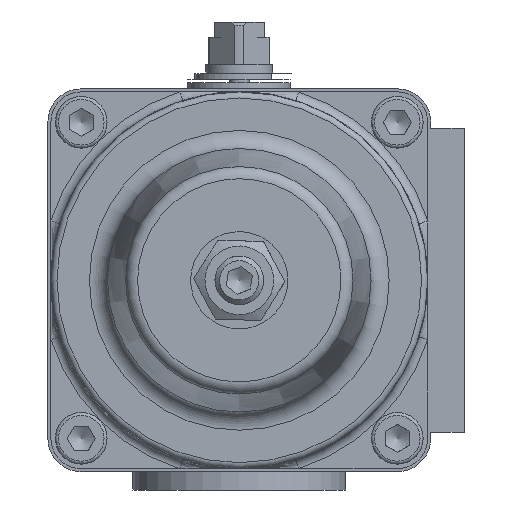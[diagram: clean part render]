
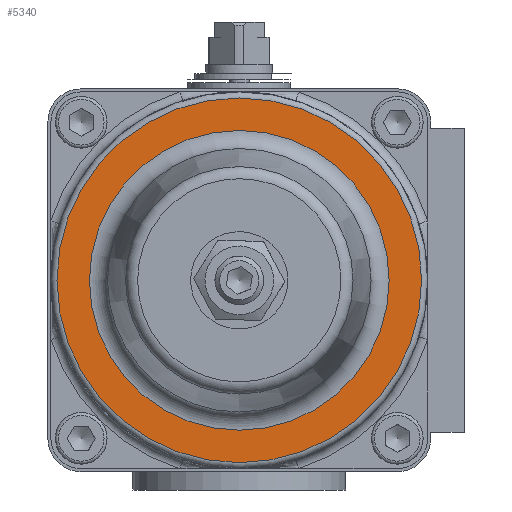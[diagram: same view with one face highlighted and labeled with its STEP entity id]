
A CAD part, left-side view. The second image highlights one B-rep face of the part: STEP entity #5340.
In plain terms, the highlighted planar face has unit normal (-1, 0, 0).
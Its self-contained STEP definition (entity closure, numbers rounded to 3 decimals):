
#5298=CARTESIAN_POINT('',(-102.75,0.,30.0));
#5299=VERTEX_POINT('',#5298);
#5300=CARTESIAN_POINT('',(-102.75,0.,0.));
#5301=DIRECTION('',(1.0,0.0,0.0));
#5302=DIRECTION('',(0.0,0.0,-1.0));
#5303=AXIS2_PLACEMENT_3D('',#5300,#5301,#5302);
#5304=CIRCLE('',#5303,30.0);
#5305=EDGE_CURVE('',#5299,#5299,#5304,.T.);
#5321=CARTESIAN_POINT('',(-102.75,0.,0.));
#5322=DIRECTION('',(1.0,0.0,0.0));
#5323=DIRECTION('',(0.0,0.0,-1.0));
#5324=AXIS2_PLACEMENT_3D('',#5321,#5322,#5323);
#5325=PLANE('',#5324);
#5326=ORIENTED_EDGE('',*,*,#5305,.F.);
#5327=EDGE_LOOP('',(#5326));
#5328=FACE_OUTER_BOUND('',#5327,.T.);
#5329=CARTESIAN_POINT('',(-102.75,0.,24.66));
#5330=VERTEX_POINT('',#5329);
#5331=CARTESIAN_POINT('',(-102.75,0.,0.));
#5332=DIRECTION('',(-1.0,0.0,0.0));
#5333=DIRECTION('',(0.0,0.0,-1.0));
#5334=AXIS2_PLACEMENT_3D('',#5331,#5332,#5333);
#5335=CIRCLE('',#5334,24.66);
#5336=EDGE_CURVE('',#5330,#5330,#5335,.T.);
#5337=ORIENTED_EDGE('',*,*,#5336,.F.);
#5338=EDGE_LOOP('',(#5337));
#5339=FACE_BOUND('',#5338,.T.);
#5340=ADVANCED_FACE('',(#5328,#5339),#5325,.F.);
